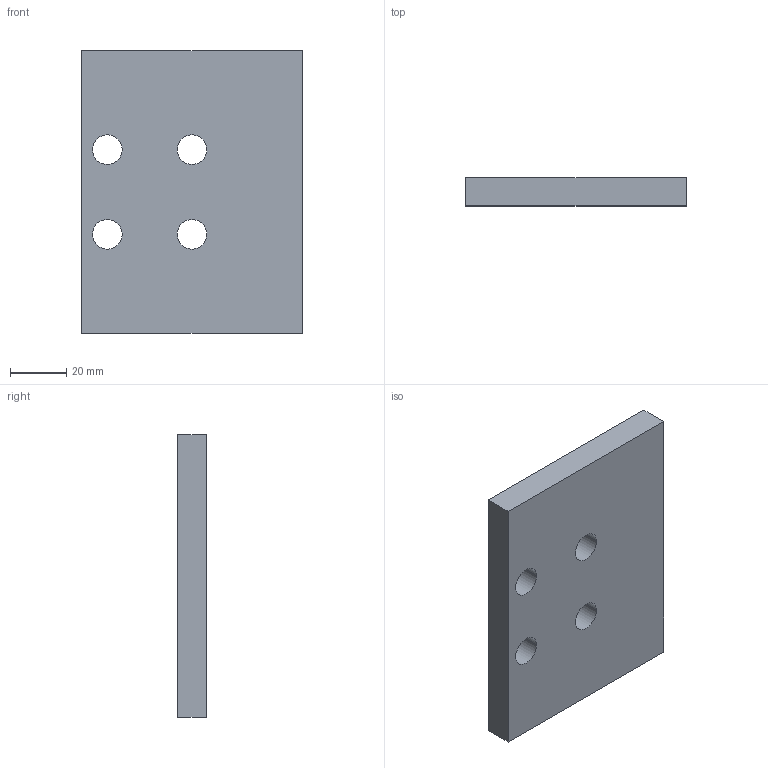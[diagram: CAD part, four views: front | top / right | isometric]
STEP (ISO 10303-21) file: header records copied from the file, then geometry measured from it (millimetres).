
FILE_DESCRIPTION( ( '' ), '1' );
FILE_NAME( 'E:/04 嬴檜蠱滌/0404 ZIMMER/040414 ZIMMER CAD download/Adapt plate/PLK for LKP, LKPS/PLK55-10.stp', '2020-04-16T10:20:07', ( '' ), ( '' ), ' ', ' ', ' ' );
FILE_SCHEMA( ( 'automotive_design' ) );
Length unit declared in the file: millimetre
Products named in the file (1): 1
Bounding box: 78 x 10 x 100 mm (x, y, z)
Volume: 74536.4 mm3; surface area: 19786.7 mm2
Topology: 1 solids, 1 shells, 14 faces, 36 edges, 24 vertices
Faces by surface type: cylinder 8, plane 6
Entity records: 888 total; most frequent: DIRECTION 82, STYLED_ITEM 75, PRESENTATION_STYLE_ASSIGNMENT 75, CARTESIAN_POINT 75, COLOUR_RGB 75, ORIENTED_EDGE 72, EDGE_CURVE 36, CURVE_STYLE 36
